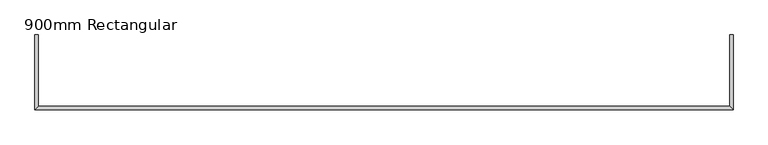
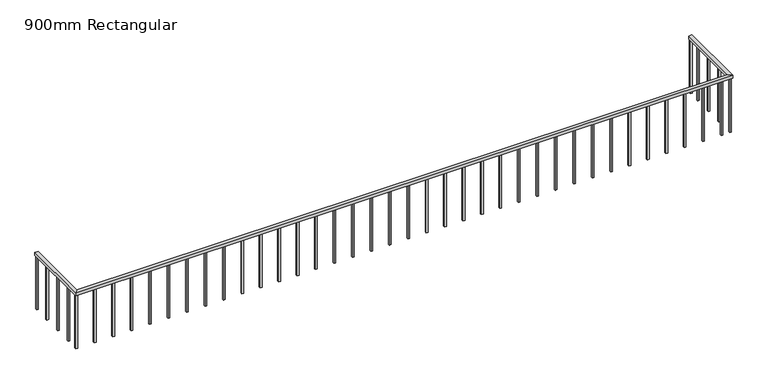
"""IFC4 building model written with IfcOpenShell, lengths in millimetres: railing geometry, 900mm Rectangular."""

from ifc_helpers import new_model, si_unit, frame, origin, place, context, project, spatial, polyline, outline, extrude, faceted_brep, source, transform, mapped, element, save


def railing_900mm_rectangular_e904e20f(model_context):
    return source(origin(), model_context, "Body", "SolidModel", [
        faceted_brep([(2919.2181942, -4397.0090589, 4400.0), (2969.2181942, -4397.0090589, 4400.0), (2969.2181942, -4397.0090589, 4350.0), (2919.2181942, -4397.0090589, 4350.0), (12719.2181942, -4397.0090589, 4400.0), (12719.2181942, -4397.0090589, 4350.0), (12669.2181942, -4397.0090589, 4350.0), (12669.2181942, -4397.0090589, 4400.0), (2919.2181942, -5447.0090589, 4400.0), (2969.2181942, -5397.0090589, 4400.0), (2969.2181942, -5397.0090589, 4350.0), (2919.2181942, -5447.0090589, 4350.0), (12719.2181942, -5447.0090589, 4400.0), (12669.2181942, -5397.0090589, 4400.0), (12669.2181942, -5397.0090589, 4350.0), (12719.2181942, -5447.0090589, 4350.0)], [[[0, 1, 2, 3]], [[4, 5, 6, 7]], [[1, 0, 8, 9]], [[2, 1, 9, 10]], [[3, 2, 10, 11]], [[0, 3, 11, 8]], [[9, 8, 12, 13]], [[10, 9, 13, 14]], [[11, 10, 14, 15]], [[8, 11, 15, 12]], [[13, 12, 4, 7]], [[14, 13, 7, 6]], [[15, 14, 6, 5]], [[12, 15, 5, 4]]]),
        extrude(outline(polyline([(12706.7181942, -4609.5090589), (12681.7181942, -4609.5090589), (12681.7181942, -4584.5090589), (12706.7181942, -4584.5090589), (12706.7181942, -4609.5090589)])), frame((0.0, 0.0, 3500.0), z_axis=(0.0, 0.0, 1.0), x_axis=(1.0, 0.0, 0.0)), (0.0, 0.0, 1.0), 850.0),
        extrude(outline(polyline([(12706.7181942, -4884.5090589), (12681.7181942, -4884.5090589), (12681.7181942, -4859.5090589), (12706.7181942, -4859.5090589), (12706.7181942, -4884.5090589)])), frame((0.0, 0.0, 3500.0), z_axis=(0.0, 0.0, 1.0), x_axis=(1.0, 0.0, 0.0)), (0.0, 0.0, 1.0), 850.0),
        extrude(outline(polyline([(12706.7181942, -5159.5090589), (12681.7181942, -5159.5090589), (12681.7181942, -5134.5090589), (12706.7181942, -5134.5090589), (12706.7181942, -5159.5090589)])), frame((0.0, 0.0, 3500.0), z_axis=(0.0, 0.0, 1.0), x_axis=(1.0, 0.0, 0.0)), (0.0, 0.0, 1.0), 850.0),
        extrude(outline(polyline([(12556.7181942, -5434.5090589), (12556.7181942, -5409.5090589), (12581.7181942, -5409.5090589), (12581.7181942, -5434.5090589), (12556.7181942, -5434.5090589)])), frame((0.0, 0.0, 3500.0), z_axis=(0.0, 0.0, 1.0), x_axis=(1.0, 0.0, 0.0)), (0.0, 0.0, 1.0), 850.0),
        extrude(outline(polyline([(12281.7181942, -5434.5090589), (12281.7181942, -5409.5090589), (12306.7181942, -5409.5090589), (12306.7181942, -5434.5090589), (12281.7181942, -5434.5090589)])), frame((0.0, 0.0, 3500.0), z_axis=(0.0, 0.0, 1.0), x_axis=(1.0, 0.0, 0.0)), (0.0, 0.0, 1.0), 850.0),
        extrude(outline(polyline([(12006.7181942, -5434.5090589), (12006.7181942, -5409.5090589), (12031.7181942, -5409.5090589), (12031.7181942, -5434.5090589), (12006.7181942, -5434.5090589)])), frame((0.0, 0.0, 3500.0), z_axis=(0.0, 0.0, 1.0), x_axis=(1.0, 0.0, 0.0)), (0.0, 0.0, 1.0), 850.0),
        extrude(outline(polyline([(11731.7181942, -5434.5090589), (11731.7181942, -5409.5090589), (11756.7181942, -5409.5090589), (11756.7181942, -5434.5090589), (11731.7181942, -5434.5090589)])), frame((0.0, 0.0, 3500.0), z_axis=(0.0, 0.0, 1.0), x_axis=(1.0, 0.0, 0.0)), (0.0, 0.0, 1.0), 850.0),
        extrude(outline(polyline([(11456.7181942, -5434.5090589), (11456.7181942, -5409.5090589), (11481.7181942, -5409.5090589), (11481.7181942, -5434.5090589), (11456.7181942, -5434.5090589)])), frame((0.0, 0.0, 3500.0), z_axis=(0.0, 0.0, 1.0), x_axis=(1.0, 0.0, 0.0)), (0.0, 0.0, 1.0), 850.0),
        extrude(outline(polyline([(11181.7181942, -5434.5090589), (11181.7181942, -5409.5090589), (11206.7181942, -5409.5090589), (11206.7181942, -5434.5090589), (11181.7181942, -5434.5090589)])), frame((0.0, 0.0, 3500.0), z_axis=(0.0, 0.0, 1.0), x_axis=(1.0, 0.0, 0.0)), (0.0, 0.0, 1.0), 850.0),
        extrude(outline(polyline([(10906.7181942, -5434.5090589), (10906.7181942, -5409.5090589), (10931.7181942, -5409.5090589), (10931.7181942, -5434.5090589), (10906.7181942, -5434.5090589)])), frame((0.0, 0.0, 3500.0), z_axis=(0.0, 0.0, 1.0), x_axis=(1.0, 0.0, 0.0)), (0.0, 0.0, 1.0), 850.0),
        extrude(outline(polyline([(10631.7181942, -5434.5090589), (10631.7181942, -5409.5090589), (10656.7181942, -5409.5090589), (10656.7181942, -5434.5090589), (10631.7181942, -5434.5090589)])), frame((0.0, 0.0, 3500.0), z_axis=(0.0, 0.0, 1.0), x_axis=(1.0, 0.0, 0.0)), (0.0, 0.0, 1.0), 850.0),
        extrude(outline(polyline([(10356.7181942, -5434.5090589), (10356.7181942, -5409.5090589), (10381.7181942, -5409.5090589), (10381.7181942, -5434.5090589), (10356.7181942, -5434.5090589)])), frame((0.0, 0.0, 3500.0), z_axis=(0.0, 0.0, 1.0), x_axis=(1.0, 0.0, 0.0)), (0.0, 0.0, 1.0), 850.0),
        extrude(outline(polyline([(10081.7181942, -5434.5090589), (10081.7181942, -5409.5090589), (10106.7181942, -5409.5090589), (10106.7181942, -5434.5090589), (10081.7181942, -5434.5090589)])), frame((0.0, 0.0, 3500.0), z_axis=(0.0, 0.0, 1.0), x_axis=(1.0, 0.0, 0.0)), (0.0, 0.0, 1.0), 850.0),
        extrude(outline(polyline([(9806.7181942, -5434.5090589), (9806.7181942, -5409.5090589), (9831.7181942, -5409.5090589), (9831.7181942, -5434.5090589), (9806.7181942, -5434.5090589)])), frame((0.0, 0.0, 3500.0), z_axis=(0.0, 0.0, 1.0), x_axis=(1.0, 0.0, 0.0)), (0.0, 0.0, 1.0), 850.0),
        extrude(outline(polyline([(9531.7181942, -5434.5090589), (9531.7181942, -5409.5090589), (9556.7181942, -5409.5090589), (9556.7181942, -5434.5090589), (9531.7181942, -5434.5090589)])), frame((0.0, 0.0, 3500.0), z_axis=(0.0, 0.0, 1.0), x_axis=(1.0, 0.0, 0.0)), (0.0, 0.0, 1.0), 850.0),
        extrude(outline(polyline([(9256.7181942, -5434.5090589), (9256.7181942, -5409.5090589), (9281.7181942, -5409.5090589), (9281.7181942, -5434.5090589), (9256.7181942, -5434.5090589)])), frame((0.0, 0.0, 3500.0), z_axis=(0.0, 0.0, 1.0), x_axis=(1.0, 0.0, 0.0)), (0.0, 0.0, 1.0), 850.0),
        extrude(outline(polyline([(8981.7181942, -5434.5090589), (8981.7181942, -5409.5090589), (9006.7181942, -5409.5090589), (9006.7181942, -5434.5090589), (8981.7181942, -5434.5090589)])), frame((0.0, 0.0, 3500.0), z_axis=(0.0, 0.0, 1.0), x_axis=(1.0, 0.0, 0.0)), (0.0, 0.0, 1.0), 850.0),
        extrude(outline(polyline([(8706.7181942, -5434.5090589), (8706.7181942, -5409.5090589), (8731.7181942, -5409.5090589), (8731.7181942, -5434.5090589), (8706.7181942, -5434.5090589)])), frame((0.0, 0.0, 3500.0), z_axis=(0.0, 0.0, 1.0), x_axis=(1.0, 0.0, 0.0)), (0.0, 0.0, 1.0), 850.0),
        extrude(outline(polyline([(8431.7181942, -5434.5090589), (8431.7181942, -5409.5090589), (8456.7181942, -5409.5090589), (8456.7181942, -5434.5090589), (8431.7181942, -5434.5090589)])), frame((0.0, 0.0, 3500.0), z_axis=(0.0, 0.0, 1.0), x_axis=(1.0, 0.0, 0.0)), (0.0, 0.0, 1.0), 850.0),
        extrude(outline(polyline([(8156.7181942, -5434.5090589), (8156.7181942, -5409.5090589), (8181.7181942, -5409.5090589), (8181.7181942, -5434.5090589), (8156.7181942, -5434.5090589)])), frame((0.0, 0.0, 3500.0), z_axis=(0.0, 0.0, 1.0), x_axis=(1.0, 0.0, 0.0)), (0.0, 0.0, 1.0), 850.0),
        extrude(outline(polyline([(7881.7181942, -5434.5090589), (7881.7181942, -5409.5090589), (7906.7181942, -5409.5090589), (7906.7181942, -5434.5090589), (7881.7181942, -5434.5090589)])), frame((0.0, 0.0, 3500.0), z_axis=(0.0, 0.0, 1.0), x_axis=(1.0, 0.0, 0.0)), (0.0, 0.0, 1.0), 850.0),
        extrude(outline(polyline([(7606.7181942, -5434.5090589), (7606.7181942, -5409.5090589), (7631.7181942, -5409.5090589), (7631.7181942, -5434.5090589), (7606.7181942, -5434.5090589)])), frame((0.0, 0.0, 3500.0), z_axis=(0.0, 0.0, 1.0), x_axis=(1.0, 0.0, 0.0)), (0.0, 0.0, 1.0), 850.0),
        extrude(outline(polyline([(7331.7181942, -5434.5090589), (7331.7181942, -5409.5090589), (7356.7181942, -5409.5090589), (7356.7181942, -5434.5090589), (7331.7181942, -5434.5090589)])), frame((0.0, 0.0, 3500.0), z_axis=(0.0, 0.0, 1.0), x_axis=(1.0, 0.0, 0.0)), (0.0, 0.0, 1.0), 850.0),
        extrude(outline(polyline([(7056.7181942, -5434.5090589), (7056.7181942, -5409.5090589), (7081.7181942, -5409.5090589), (7081.7181942, -5434.5090589), (7056.7181942, -5434.5090589)])), frame((0.0, 0.0, 3500.0), z_axis=(0.0, 0.0, 1.0), x_axis=(1.0, 0.0, 0.0)), (0.0, 0.0, 1.0), 850.0),
        extrude(outline(polyline([(6781.7181942, -5434.5090589), (6781.7181942, -5409.5090589), (6806.7181942, -5409.5090589), (6806.7181942, -5434.5090589), (6781.7181942, -5434.5090589)])), frame((0.0, 0.0, 3500.0), z_axis=(0.0, 0.0, 1.0), x_axis=(1.0, 0.0, 0.0)), (0.0, 0.0, 1.0), 850.0),
        extrude(outline(polyline([(6506.7181942, -5434.5090589), (6506.7181942, -5409.5090589), (6531.7181942, -5409.5090589), (6531.7181942, -5434.5090589), (6506.7181942, -5434.5090589)])), frame((0.0, 0.0, 3500.0), z_axis=(0.0, 0.0, 1.0), x_axis=(1.0, 0.0, 0.0)), (0.0, 0.0, 1.0), 850.0),
        extrude(outline(polyline([(6231.7181942, -5434.5090589), (6231.7181942, -5409.5090589), (6256.7181942, -5409.5090589), (6256.7181942, -5434.5090589), (6231.7181942, -5434.5090589)])), frame((0.0, 0.0, 3500.0), z_axis=(0.0, 0.0, 1.0), x_axis=(1.0, 0.0, 0.0)), (0.0, 0.0, 1.0), 850.0),
        extrude(outline(polyline([(5956.7181942, -5434.5090589), (5956.7181942, -5409.5090589), (5981.7181942, -5409.5090589), (5981.7181942, -5434.5090589), (5956.7181942, -5434.5090589)])), frame((0.0, 0.0, 3500.0), z_axis=(0.0, 0.0, 1.0), x_axis=(1.0, 0.0, 0.0)), (0.0, 0.0, 1.0), 850.0),
        extrude(outline(polyline([(5681.7181942, -5434.5090589), (5681.7181942, -5409.5090589), (5706.7181942, -5409.5090589), (5706.7181942, -5434.5090589), (5681.7181942, -5434.5090589)])), frame((0.0, 0.0, 3500.0), z_axis=(0.0, 0.0, 1.0), x_axis=(1.0, 0.0, 0.0)), (0.0, 0.0, 1.0), 850.0),
        extrude(outline(polyline([(5406.7181942, -5434.5090589), (5406.7181942, -5409.5090589), (5431.7181942, -5409.5090589), (5431.7181942, -5434.5090589), (5406.7181942, -5434.5090589)])), frame((0.0, 0.0, 3500.0), z_axis=(0.0, 0.0, 1.0), x_axis=(1.0, 0.0, 0.0)), (0.0, 0.0, 1.0), 850.0),
        extrude(outline(polyline([(5131.7181942, -5434.5090589), (5131.7181942, -5409.5090589), (5156.7181942, -5409.5090589), (5156.7181942, -5434.5090589), (5131.7181942, -5434.5090589)])), frame((0.0, 0.0, 3500.0), z_axis=(0.0, 0.0, 1.0), x_axis=(1.0, 0.0, 0.0)), (0.0, 0.0, 1.0), 850.0),
        extrude(outline(polyline([(4856.7181942, -5434.5090589), (4856.7181942, -5409.5090589), (4881.7181942, -5409.5090589), (4881.7181942, -5434.5090589), (4856.7181942, -5434.5090589)])), frame((0.0, 0.0, 3500.0), z_axis=(0.0, 0.0, 1.0), x_axis=(1.0, 0.0, 0.0)), (0.0, 0.0, 1.0), 850.0),
        extrude(outline(polyline([(4581.7181942, -5434.5090589), (4581.7181942, -5409.5090589), (4606.7181942, -5409.5090589), (4606.7181942, -5434.5090589), (4581.7181942, -5434.5090589)])), frame((0.0, 0.0, 3500.0), z_axis=(0.0, 0.0, 1.0), x_axis=(1.0, 0.0, 0.0)), (0.0, 0.0, 1.0), 850.0),
        extrude(outline(polyline([(4306.7181942, -5434.5090589), (4306.7181942, -5409.5090589), (4331.7181942, -5409.5090589), (4331.7181942, -5434.5090589), (4306.7181942, -5434.5090589)])), frame((0.0, 0.0, 3500.0), z_axis=(0.0, 0.0, 1.0), x_axis=(1.0, 0.0, 0.0)), (0.0, 0.0, 1.0), 850.0),
        extrude(outline(polyline([(4031.7181942, -5434.5090589), (4031.7181942, -5409.5090589), (4056.7181942, -5409.5090589), (4056.7181942, -5434.5090589), (4031.7181942, -5434.5090589)])), frame((0.0, 0.0, 3500.0), z_axis=(0.0, 0.0, 1.0), x_axis=(1.0, 0.0, 0.0)), (0.0, 0.0, 1.0), 850.0),
        extrude(outline(polyline([(3756.7181942, -5434.5090589), (3756.7181942, -5409.5090589), (3781.7181942, -5409.5090589), (3781.7181942, -5434.5090589), (3756.7181942, -5434.5090589)])), frame((0.0, 0.0, 3500.0), z_axis=(0.0, 0.0, 1.0), x_axis=(1.0, 0.0, 0.0)), (0.0, 0.0, 1.0), 850.0),
        extrude(outline(polyline([(3481.7181942, -5434.5090589), (3481.7181942, -5409.5090589), (3506.7181942, -5409.5090589), (3506.7181942, -5434.5090589), (3481.7181942, -5434.5090589)])), frame((0.0, 0.0, 3500.0), z_axis=(0.0, 0.0, 1.0), x_axis=(1.0, 0.0, 0.0)), (0.0, 0.0, 1.0), 850.0),
        extrude(outline(polyline([(3206.7181942, -5434.5090589), (3206.7181942, -5409.5090589), (3231.7181942, -5409.5090589), (3231.7181942, -5434.5090589), (3206.7181942, -5434.5090589)])), frame((0.0, 0.0, 3500.0), z_axis=(0.0, 0.0, 1.0), x_axis=(1.0, 0.0, 0.0)), (0.0, 0.0, 1.0), 850.0),
        extrude(outline(polyline([(2931.7181942, -5209.5090589), (2956.7181942, -5209.5090589), (2956.7181942, -5234.5090589), (2931.7181942, -5234.5090589), (2931.7181942, -5209.5090589)])), frame((0.0, 0.0, 3500.0), z_axis=(0.0, 0.0, 1.0), x_axis=(1.0, 0.0, 0.0)), (0.0, 0.0, 1.0), 850.0),
        extrude(outline(polyline([(2931.7181942, -4934.5090589), (2956.7181942, -4934.5090589), (2956.7181942, -4959.5090589), (2931.7181942, -4959.5090589), (2931.7181942, -4934.5090589)])), frame((0.0, 0.0, 3500.0), z_axis=(0.0, 0.0, 1.0), x_axis=(1.0, 0.0, 0.0)), (0.0, 0.0, 1.0), 850.0),
        extrude(outline(polyline([(2931.7181942, -4659.5090589), (2956.7181942, -4659.5090589), (2956.7181942, -4684.5090589), (2931.7181942, -4684.5090589), (2931.7181942, -4659.5090589)])), frame((0.0, 0.0, 3500.0), z_axis=(0.0, 0.0, 1.0), x_axis=(1.0, 0.0, 0.0)), (0.0, 0.0, 1.0), 850.0),
        extrude(outline(polyline([(12681.7181942, -5434.5090589), (12681.7181942, -5409.5090589), (12706.7181942, -5409.5090589), (12706.7181942, -5434.5090589), (12681.7181942, -5434.5090589)])), frame((0.0, 0.0, 3500.0), z_axis=(0.0, 0.0, 1.0), x_axis=(1.0, 0.0, 0.0)), (0.0, 0.0, 1.0), 850.0),
        extrude(outline(polyline([(2931.7181942, -5409.5090589), (2956.7181942, -5409.5090589), (2956.7181942, -5434.5090589), (2931.7181942, -5434.5090589), (2931.7181942, -5409.5090589)])), frame((0.0, 0.0, 3500.0), z_axis=(0.0, 0.0, 1.0), x_axis=(1.0, 0.0, 0.0)), (0.0, 0.0, 1.0), 850.0),
        extrude(outline(polyline([(12706.7181942, -4422.0090589), (12681.7181942, -4422.0090589), (12681.7181942, -4397.0090589), (12706.7181942, -4397.0090589), (12706.7181942, -4422.0090589)])), frame((0.0, 0.0, 3500.0), z_axis=(0.0, 0.0, 1.0), x_axis=(1.0, 0.0, 0.0)), (0.0, 0.0, 1.0), 850.0),
        extrude(outline(polyline([(2931.7181942, -4397.0090589), (2956.7181942, -4397.0090589), (2956.7181942, -4422.0090589), (2931.7181942, -4422.0090589), (2931.7181942, -4397.0090589)])), frame((0.0, 0.0, 3500.0), z_axis=(0.0, 0.0, 1.0), x_axis=(1.0, 0.0, 0.0)), (0.0, 0.0, 1.0), 850.0),
    ])


if __name__ == "__main__":
    model = new_model("IFC4")
    model_context = context("Model", 3, world=origin())
    ifc_project = project(units=[si_unit("LENGTHUNIT", "METRE", prefix="MILLI")], contexts=[model_context])
    site = spatial("IfcSite", under=ifc_project)
    building = spatial("IfcBuilding", under=site)
    placement = place(None, origin())
    railing_900mm_rectangular_shape = railing_900mm_rectangular_e904e20f(model_context)
    element("IfcRailing", 1, ObjectType="900mm Rectangular", at=placement, inside=building, context=model_context, shape_type="MappedRepresentation", body=[
        mapped(railing_900mm_rectangular_shape, transform((0.0, 0.0, 0.0), x_axis=(1.0, 0.0, 0.0), y_axis=(0.0, 1.0, 0.0), z_axis=(0.0, 0.0, 1.0))),
    ])
    save(model, "model.ifc")
